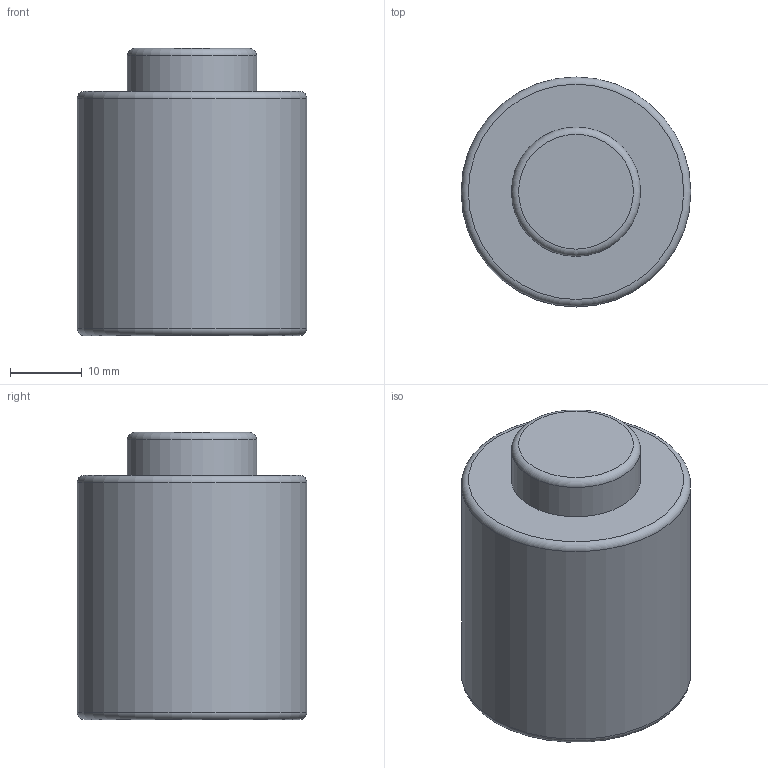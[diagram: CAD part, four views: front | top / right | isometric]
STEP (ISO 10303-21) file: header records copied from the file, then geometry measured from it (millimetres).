
FILE_DESCRIPTION(/* description */ (''),/* implementation_level */ '2;1');
FILE_NAME(/* name */ 'NV5-SMLX.32x5.stp',/* time_stamp */ '2018-08-31T16:08:36+02:00',/* author */ (''),/* organization */ (''),/* preprocessor_version */ 'ST-DEVELOPER v16',/* originating_system */ 'SIEMENS PLM Software NX 10.0',/* authorisation */ '');
FILE_SCHEMA (('AUTOMOTIVE_DESIGN { 1 0 10303 214 3 1 1 1 }'));
Length unit declared in the file: millimetre
Products named in the file (1): NV5-SMLX.32x5
Bounding box: 32 x 32 x 40 mm (x, y, z)
Volume: 28591 mm3; surface area: 5430 mm2
Topology: 1 solids, 1 shells, 10 faces, 18 edges, 11 vertices
Faces by surface type: cylinder 3, torus 3, plane 3, cone 1
Full cylindrical faces by diameter (mm): 5 x1, 18 x1, 32 x1
Entity records: 222 total; most frequent: DIRECTION 40, CARTESIAN_POINT 30, AXIS2_PLACEMENT_3D 20, FACE_BOUND 18, EDGE_LOOP 18, ORIENTED_EDGE 18, ADVANCED_FACE 10, VERTEX_POINT 10
